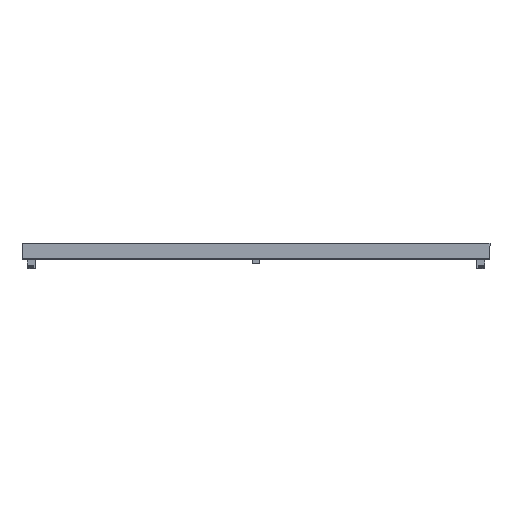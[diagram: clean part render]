
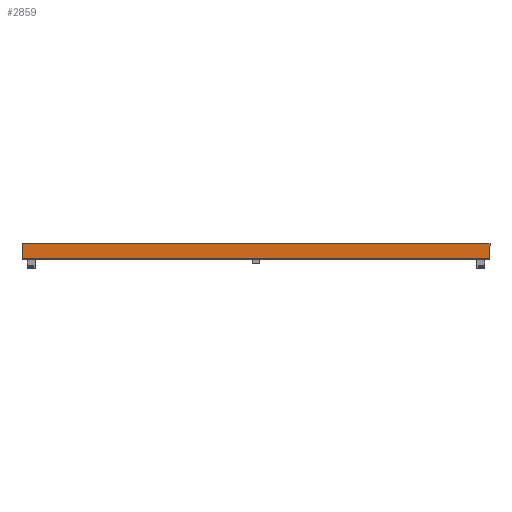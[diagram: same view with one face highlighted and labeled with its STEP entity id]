
A CAD part, left-side view. The second image highlights one B-rep face of the part: STEP entity #2859.
In plain terms, the highlighted planar face has unit normal (-1, 0, 0).
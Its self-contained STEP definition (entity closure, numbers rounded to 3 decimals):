
#14 = ORIENTED_EDGE ( 'NONE', *, *, #2712, .T. ) ;
#62 = CARTESIAN_POINT ( 'NONE',  ( -10., -19.6, 599.5 ) ) ;
#106 = FACE_OUTER_BOUND ( 'NONE', #2894, .T. ) ;
#307 = DIRECTION ( 'NONE',  ( 1., 0., 0. ) ) ;
#352 = DIRECTION ( 'NONE',  ( 0., -1., 0. ) ) ;
#610 = LINE ( 'NONE', #62, #5741 ) ;
#644 = DIRECTION ( 'NONE',  ( 0., 0., 1. ) ) ;
#1218 = DIRECTION ( 'NONE',  ( 0., 0., -1. ) ) ;
#1224 = EDGE_CURVE ( 'NONE', #5067, #6063, #4666, .T. ) ;
#1372 = VECTOR ( 'NONE', #5126, 1000. ) ;
#1635 = ORIENTED_EDGE ( 'NONE', *, *, #3250, .F. ) ;
#1856 = LINE ( 'NONE', #6395, #6269 ) ;
#1983 = PLANE ( 'NONE',  #4589 ) ;
#2273 = CARTESIAN_POINT ( 'NONE',  ( -10., -19.6, -599.5 ) ) ;
#2329 = DIRECTION ( 'NONE',  ( 0., 0., -1. ) ) ;
#2577 = ORIENTED_EDGE ( 'NONE', *, *, #1224, .T. ) ;
#2712 = EDGE_CURVE ( 'NONE', #4812, #5067, #5113, .T. ) ;
#2859 = ADVANCED_FACE ( 'NONE', ( #106 ), #1983, .F. ) ;
#2894 = EDGE_LOOP ( 'NONE', ( #2577, #6289, #1635, #14 ) ) ;
#2947 = VERTEX_POINT ( 'NONE', #5026 ) ;
#2980 = EDGE_CURVE ( 'NONE', #6063, #2947, #610, .T. ) ;
#3122 = CARTESIAN_POINT ( 'NONE',  ( -10., -21., -599.5 ) ) ;
#3250 = EDGE_CURVE ( 'NONE', #4812, #2947, #1856, .T. ) ;
#4169 = VECTOR ( 'NONE', #1218, 1000. ) ;
#4589 = AXIS2_PLACEMENT_3D ( 'NONE', #5977, #307, #2329 ) ;
#4666 = LINE ( 'NONE', #3122, #1372 ) ;
#4812 = VERTEX_POINT ( 'NONE', #5619 ) ;
#4983 = CARTESIAN_POINT ( 'NONE',  ( -10., 19.6, -599.5 ) ) ;
#5026 = CARTESIAN_POINT ( 'NONE',  ( -10., -19.6, 599.5 ) ) ;
#5067 = VERTEX_POINT ( 'NONE', #4983 ) ;
#5113 = LINE ( 'NONE', #5729, #4169 ) ;
#5126 = DIRECTION ( 'NONE',  ( 0., -1., 0. ) ) ;
#5619 = CARTESIAN_POINT ( 'NONE',  ( -10., 19.6, 599.5 ) ) ;
#5729 = CARTESIAN_POINT ( 'NONE',  ( -10., 19.6, 599.5 ) ) ;
#5741 = VECTOR ( 'NONE', #644, 1000. ) ;
#5977 = CARTESIAN_POINT ( 'NONE',  ( -10., -21., 599.5 ) ) ;
#6063 = VERTEX_POINT ( 'NONE', #2273 ) ;
#6269 = VECTOR ( 'NONE', #352, 1000. ) ;
#6289 = ORIENTED_EDGE ( 'NONE', *, *, #2980, .T. ) ;
#6395 = CARTESIAN_POINT ( 'NONE',  ( -10., -21., 599.5 ) ) ;
